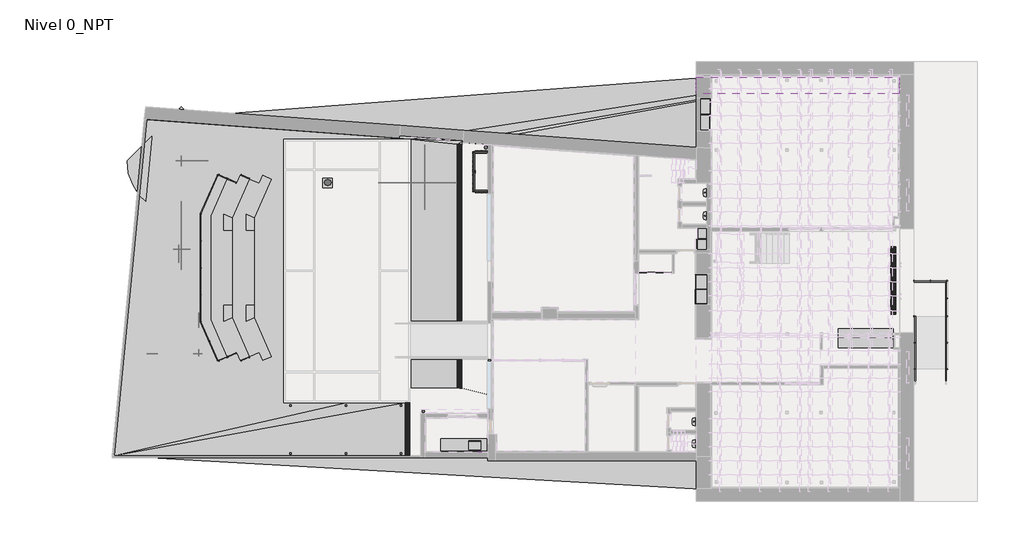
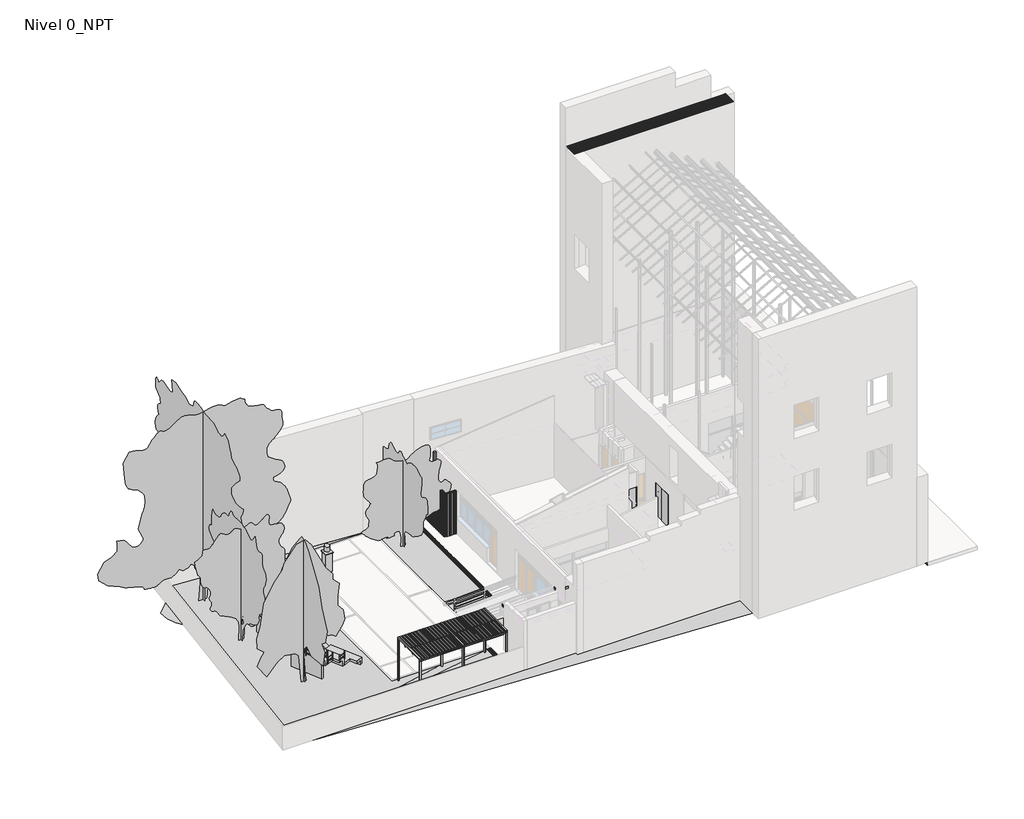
# One storey, part 10 of 10: 9 furniture elements, 9 proxies, 8 flow terminals, 4 geographic elements, 3 railings, 2 pipe segments, 1 damper.
"""IFC4 building model written with IfcOpenShell, lengths in millimetres."""

from ifc_helpers import new_model, si_unit, point, frame, frame_2d, origin, origin_with_axes, place, context, project, spatial, polyline, circle_curve, ellipse_curve, trimmed, segment, composite_curve, outline, extrude, triangles, transform, mapped, element, save
from ifc_brep_helpers import plane_surface, cylinder_surface, revolved_surface, advanced_brep
from components import generic_models_beb3b24c, generic_models_87788374, generic_models_1a0a9cd3, entourage_15c4bb0f, m_soporte_metal_circular_m_soporte_metal_circular_cf76aa7a, m_soporte_metal_circular_m_soporte_metal_circular_edb782eb, m_soporte_metal_circular_m_soporte_metal_circular_16798473, damper_fd79afff, flow_terminal_b1aadda9, flow_terminal_1d86f806, flow_terminal_f0fdbc4b, flow_terminal_4e4d4900, deposito_e05efdb8, furniture_89fc56a2, furniture_e91b6440, furniture_49c65746, furniture_471fc760, furniture_0ec30544, furniture_309767dc, furniture_39a86fb1, furniture_507244a7, geographic_element_192016b0, geographic_element_4d039a6d, geographic_element_351dbac9, roble_de_shumard_12_2_metros_2cefd2b4

model = new_model("IFC4")

# Units and contexts
model_context = context("Model", 3, world=origin())
ifc_project = project(units=[si_unit("LENGTHUNIT", "METRE", prefix="MILLI")], contexts=[model_context])

# Site, building, storey
site = spatial("IfcSite", under=ifc_project)
building = spatial("IfcBuilding", under=site)
storey = spatial("IfcBuildingStorey", under=building, Name="Nivel 0_NPT", Elevation=0.0)

# Proxies
placement = place(None, origin())
element("IfcBuildingElementProxy", 1, Name="Building Element Proxy", at=placement, inside=storey, context=model_context, shape_type="Tessellation", body=[
    triangles([(-20610.9698364, 11624.0056, -200.0000015), (-22128.8260254, -4256.3928108, -200.0000015), (15594.8120636, -6406.3671021, -200.0000015), (15644.8125, -6406.3671021, -420.0000177), (18644.8131042, -6406.3671021, -420.0000177), (18644.8131042, 14343.6070404, -420.0000177), (15644.8125, 14343.6070404, -420.0000177), (15636.9106567, 14343.6070404, -200.0000015), (-5685.1872849, 10461.3009888, -150.0000011), (-5685.1872849, 2237.5654564, -150.5565351), (-5685.1872849, 2006.4196815, -150.5576252), (-5685.1872849, -1076.3928011, -150.0000011), (-5869.4882446, -1076.3928011, -161.8313829), (-5925.1871704, -1076.3928011, -162.2760687), (-5925.1871704, -1066.3927574, -150.0000011), (-5925.1871704, 2101.3006634, -150.0000011), (-5925.1871704, 10461.3009888, -152.926385), (-8145.1871292, -1755.0065392, -200.0000015), (-8145.1871292, -4256.3928108, -200.0000015), (-8385.1875961, -4256.3928108, -200.0000015), (-8385.1875961, -1755.0065392, -200.0000015), (-5667.0790878, 10630.2802094, -200.0000015), (-5689.8003754, -1108.6532593, -200.0000015), (-8138.7427551, 10698.8190491, -180.000005), (-8145.1871292, -1076.3928011, -180.000005)], [[2, 20, 21], [20, 2, 3], [2, 21, 25], [18, 14, 25], [14, 18, 19], [18, 25, 21], [20, 3, 19], [2, 25, 1], [24, 16, 17], [24, 1, 25], [24, 17, 22], [1, 24, 8], [24, 25, 16], [16, 25, 15], [25, 14, 15], [19, 23, 14], [13, 23, 12], [13, 14, 23], [12, 23, 3], [8, 3, 4], [3, 11, 12], [19, 3, 23], [7, 4, 5], [11, 3, 10], [9, 10, 8], [22, 8, 24], [22, 9, 8], [3, 8, 10], [7, 8, 4], [5, 6, 7], [9, 22, 17]], closed=False),
])
generic_models_shape = generic_models_beb3b24c(model_context)
element("IfcBuildingElementProxy", 2, Name="Busto de Artigas : Busto de Artigas", ObjectType="Busto de Artigas : Busto de Artigas", at=placement, inside=storey, context=model_context, shape_type="MappedRepresentation", body=[
    mapped(generic_models_shape, transform((781.312068, 6230.2066743, 0.0), x_axis=(1.0, 0.0, 0.0), y_axis=(0.0, 1.0, 0.0), z_axis=(0.0, 0.0, 1.0))),
])
generic_models_2_shape = generic_models_87788374(model_context)
generic_models_3_shape = generic_models_1a0a9cd3(model_context)
element("IfcBuildingElementProxy", 3, Name="ARQ-PAS-Osogrid-Ace : ARQ-PAS-Osogrid-Ace", ObjectType="ARQ-PAS-Osogrid-Ace : ARQ-PAS-Osogrid-Ace", at=placement, inside=storey, context=model_context, shape_type="MappedRepresentation", body=[
    mapped(generic_models_2_shape, transform((14961.7897792, 12845.7072273, 17860.0), x_axis=(1.0, 0.0, 0.0), y_axis=(0.0, 1.0, 0.0), z_axis=(0.0, 0.0, 1.0))),
    mapped(generic_models_3_shape, transform((14961.7897792, 12845.7072273, 17860.0), x_axis=(1.0, 0.0, 0.0), y_axis=(0.0, 1.0, 0.0), z_axis=(0.0, 0.0, 1.0))),
])
entourage_shape = entourage_15c4bb0f(model_context)
element("IfcBuildingElementProxy", 4, Name="Busto : Busto", ObjectType="Busto : Busto", at=placement, inside=storey, context=model_context, shape_type="MappedRepresentation", body=[
    mapped(entourage_shape, transform((0.0, 0.0, 0.0), x_axis=(1.0, 0.0, 0.0), y_axis=(0.0, 1.0, 0.0), z_axis=(0.0, 0.0, 1.0))),
])
m_soporte_metal_circular_m_soporte_metal_circular_shape = m_soporte_metal_circular_m_soporte_metal_circular_cf76aa7a(model_context)
element("IfcBuildingElementProxy", 5, Name="M_Soporte - Metal - Circular : M_Soporte - Metal - Circular", ObjectType="M_Soporte - Metal - Circular : M_Soporte - Metal - Circular", at=placement, inside=storey, context=model_context, shape_type="MappedRepresentation", body=[
    mapped(m_soporte_metal_circular_m_soporte_metal_circular_shape, transform((16433.044121, 3951.1327145, 855.0), x_axis=(1.0, 0.0, 0.0), y_axis=(0.0, 1.0, 0.0), z_axis=(0.0, 0.0, 1.0))),
])
element("IfcBuildingElementProxy", 6, Name="M_Soporte - Metal - Circular : M_Soporte - Metal - Circular", ObjectType="M_Soporte - Metal - Circular : M_Soporte - Metal - Circular", at=placement, inside=storey, context=model_context, shape_type="MappedRepresentation", body=[
    mapped(m_soporte_metal_circular_m_soporte_metal_circular_shape, transform((17159.294121, 1085.9455797, 754.9850292), x_axis=(0.0, -1.0, 0.0), y_axis=(1.0, 0.0, 0.0), z_axis=(0.0, 0.0, 1.0))),
])
element("IfcBuildingElementProxy", 7, Name="M_Soporte - Metal - Circular : M_Soporte - Metal - Circular", ObjectType="M_Soporte - Metal - Circular : M_Soporte - Metal - Circular", at=placement, inside=storey, context=model_context, shape_type="MappedRepresentation", body=[
    mapped(m_soporte_metal_circular_m_soporte_metal_circular_shape, transform((15699.8126262, 1085.9455797, 754.9850292), x_axis=(0.0, 1.0, 0.0), y_axis=(-1.0, 0.0, 0.0), z_axis=(0.0, 0.0, 1.0))),
])
m_soporte_metal_circular_m_soporte_metal_circular_2_shape = m_soporte_metal_circular_m_soporte_metal_circular_edb782eb(model_context)
element("IfcBuildingElementProxy", 8, Name="M_Soporte - Metal - Circular : M_Soporte - Metal - Circular", ObjectType="M_Soporte - Metal - Circular : M_Soporte - Metal - Circular", at=placement, inside=storey, context=model_context, shape_type="MappedRepresentation", body=[
    mapped(m_soporte_metal_circular_m_soporte_metal_circular_2_shape, transform((17159.294121, 2336.1327145, 855.0), x_axis=(0.0, -1.0, 0.0), y_axis=(1.0, 0.0, 0.0), z_axis=(0.0, 0.0, 1.0))),
])
m_soporte_metal_circular_m_soporte_metal_circular_3_shape = m_soporte_metal_circular_m_soporte_metal_circular_16798473(model_context)
element("IfcBuildingElementProxy", 9, Name="M_Soporte - Metal - Circular : M_Soporte - Metal - Circular", ObjectType="M_Soporte - Metal - Circular : M_Soporte - Metal - Circular", at=placement, inside=storey, context=model_context, shape_type="MappedRepresentation", body=[
    mapped(m_soporte_metal_circular_m_soporte_metal_circular_3_shape, transform((17159.294121, 3176.1327145, 855.0), x_axis=(0.0, -1.0, 0.0), y_axis=(1.0, 0.0, 0.0), z_axis=(0.0, 0.0, 1.0))),
])

# Damper
damper_shape = damper_fd79afff(model_context)
element("IfcDamper", 10, ObjectType="Tapas Canalon : Tapas Canalon", at=placement, inside=storey, context=model_context, shape_type="MappedRepresentation", body=[
    mapped(damper_shape, transform((0.0, 0.0, 0.0), x_axis=(1.0, 0.0, 0.0), y_axis=(0.0, 1.0, 0.0), z_axis=(0.0, 0.0, 1.0))),
])

# Flow terminals
flow_terminal_shape = flow_terminal_b1aadda9(model_context)
element("IfcFlowTerminal", 11, ObjectType="ARQ-RE-EX-Ace : L=8.36m", at=placement, inside=storey, context=model_context, shape_type="MappedRepresentation", body=[
    mapped(flow_terminal_shape, transform((-5805.1873738, 6273.8006926, -150.0), x_axis=(0.0, 1.0, 0.0), y_axis=(-1.0, 0.0, 0.0), z_axis=(0.0, 0.0, 1.0))),
])
flow_terminal_2_shape = flow_terminal_1d86f806(model_context)
element("IfcFlowTerminal", 12, ObjectType="ARQ-RE-EX-Ace : L=1.36m", at=placement, inside=storey, context=model_context, shape_type="MappedRepresentation", body=[
    mapped(flow_terminal_2_shape, transform((-5805.1873738, -386.3927727, -150.0), x_axis=(0.0, 1.0, 0.0), y_axis=(-1.0, 0.0, 0.0), z_axis=(0.0, 0.0, 1.0))),
])
flow_terminal_3_shape = flow_terminal_f0fdbc4b(model_context)
element("IfcFlowTerminal", 13, ObjectType="ARQ-RE-EX-Ace : L=2.51m", at=placement, inside=storey, context=model_context, shape_type="MappedRepresentation", body=[
    mapped(flow_terminal_3_shape, transform((-8265.1873738, -3010.0065979, -150.0), x_axis=(0.0, 1.0, 0.0), y_axis=(-1.0, 0.0, 0.0), z_axis=(0.0, 0.0, 1.0))),
])
flow_terminal_4_shape = flow_terminal_4e4d4900(model_context)
element("IfcFlowTerminal", 14, ObjectType="ARQ-RE-EX-Ace : L=3.20m", at=placement, inside=storey, context=model_context, shape_type="MappedRepresentation", body=[
    mapped(flow_terminal_4_shape, transform((14672.0691964, 4024.0367843, 0.0), x_axis=(0.0, 1.0, 0.0), y_axis=(-1.0, 0.0, 0.0), z_axis=(0.0, 0.0, 1.0))),
])
deposito_shape = deposito_e05efdb8(model_context)
element("IfcFlowTerminal", 15, ObjectType="Inodoro-Ferrum-Marina-Deposito : Deposito", at=placement, inside=storey, context=model_context, shape_type="MappedRepresentation", body=[
    mapped(deposito_shape, transform((5850.2897792, 7073.6072273, 437.8840202), x_axis=(0.0, -1.0, 0.0), y_axis=(1.0, 0.0, 0.0), z_axis=(0.0, 0.0, 1.0))),
])
element("IfcFlowTerminal", 16, ObjectType="Inodoro-Ferrum-Marina-Deposito : Deposito", at=placement, inside=storey, context=model_context, shape_type="MappedRepresentation", body=[
    mapped(deposito_shape, transform((5850.2897792, 8172.1072273, 437.8840202), x_axis=(0.0, -1.0, 0.0), y_axis=(1.0, 0.0, 0.0), z_axis=(0.0, 0.0, 1.0))),
])
element("IfcFlowTerminal", 17, ObjectType="Inodoro-Ferrum-Marina-Deposito : Deposito", at=placement, inside=storey, context=model_context, shape_type="MappedRepresentation", body=[
    mapped(deposito_shape, transform((5340.2897792, -2652.8927727, 437.8840202), x_axis=(0.0, -1.0, 0.0), y_axis=(1.0, 0.0, 0.0), z_axis=(0.0, 0.0, 1.0))),
])
element("IfcFlowTerminal", 18, ObjectType="Inodoro-Ferrum-Marina-Deposito : Deposito", at=placement, inside=storey, context=model_context, shape_type="MappedRepresentation", body=[
    mapped(deposito_shape, transform((5340.2897792, -3692.8927727, 417.8840202), x_axis=(0.0, -1.0, 0.0), y_axis=(1.0, 0.0, 0.0), z_axis=(0.0, 0.0, 1.0))),
])

# Furniture
element("IfcFurniture", 19, ObjectType="ARQ-MB-IN-Mesada cocina : ARQ-MB-IN-Mesada cocina", at=placement, inside=storey, context=model_context, shape_type="SolidModel", body=[
    extrude(outline(polyline([(-6705.1873738, -4066.3927727), (-6705.1873738, -3566.3927727), (-4505.1873738, -3566.3927727), (-4505.1873738, -4066.3927727), (-6705.1873738, -4066.3927727)])), origin_with_axes(), (0.0, 0.0, 1.0), 100.0),
    advanced_brep(
    [(-6705.1873738, -4066.3927727, 880.0), (-4505.1873738, -4066.3927727, 880.0), (-4505.1873738, -3466.3927727, 880.0), (-6705.1873738, -3466.3927727, 880.0), (-6685.1873738, -4046.3927727, 880.0), (-6685.1873738, -3566.3927727, 880.0), (-5388.9815738, -3566.3927727, 880.0), (-5388.9815738, -3552.0905727, 880.0), (-4821.3931738, -3552.0905727, 880.0), (-4821.3931738, -3566.3927727, 880.0), (-4525.1873738, -3566.3927727, 880.0), (-4525.1873738, -4046.3927727, 880.0), (-6705.1873738, -4066.3927727, 100.0), (-6705.1873738, -3466.3927727, 100.0), (-4505.1873738, -3466.3927727, 100.0), (-4505.1873738, -4066.3927727, 100.0), (-6685.1873738, -4046.3927727, 100.0), (-4525.1873738, -4046.3927727, 100.0), (-4525.1873738, -3566.3927727, 100.0), (-6685.1873738, -3566.3927727, 100.0), (-4821.3931738, -3566.3927727, 874.6), (-4800.3873738, -3566.3927727, 874.6), (-4800.3873738, -3566.3927727, 653.4358704), (-5409.9873738, -3566.3927727, 653.4358704), (-5409.9873738, -3566.3927727, 874.6), (-5388.9815738, -3566.3927727, 874.6), (-4800.3873738, -3537.4347727, 653.4358704), (-4806.7373738, -3531.0847727, 653.4358704), (-5403.6373738, -3531.0847727, 653.4358704), (-5409.9873738, -3537.4347727, 653.4358704), (-5409.9873738, -3537.4347727, 874.6), (-5403.6373738, -3531.0847727, 874.6), (-4806.7373738, -3531.0847727, 874.6), (-4800.3873738, -3537.4347727, 874.6), (-4821.3931738, -3552.0905727, 874.6), (-5388.9815738, -3552.0905727, 874.6)],
    [
        (0, 1),
        (1, 2),
        (2, 3),
        (3, 0),
        (4, 5),
        (5, 6),
        (6, 7),
        (7, 8),
        (8, 9),
        (9, 10),
        (10, 11),
        (11, 4),
        (12, 13),
        (13, 14),
        (14, 15),
        (15, 12),
        (16, 17),
        (17, 18),
        (18, 19),
        (19, 16),
        (0, 12),
        (15, 1),
        (14, 2),
        (13, 3),
        (4, 16),
        (19, 5),
        (18, 10),
        (9, 20),
        (20, 21),
        (21, 22),
        (22, 23),
        (23, 24),
        (24, 25),
        (25, 6),
        (17, 11),
        (26, 27, circle_curve(frame((-4806.7373738, -3537.4347727, 653.4358704), z_axis=(0.0, 0.0, 1.0), x_axis=(-1.0, 0.0, 0.0)), 6.35)),
        (27, 28),
        (28, 29, circle_curve(frame((-5403.6373738, -3537.4347727, 653.4358704), z_axis=(0.0, 0.0, 1.0), x_axis=(-1.0, 0.0, 0.0)), 6.35)),
        (29, 23),
        (22, 26),
        (30, 31, circle_curve(frame((-5403.6373738, -3537.4347727, 874.6), z_axis=(0.0, 0.0, -1.0), x_axis=(-1.0, 0.0, 0.0)), 6.35)),
        (31, 32),
        (32, 33, circle_curve(frame((-4806.7373738, -3537.4347727, 874.6), z_axis=(0.0, 0.0, -1.0), x_axis=(-1.0, 0.0, 0.0)), 6.35)),
        (33, 21),
        (20, 34),
        (34, 35),
        (35, 25),
        (24, 30),
        (33, 26),
        (32, 27),
        (31, 28),
        (30, 29),
        (8, 34),
        (7, 35),
    ],
    [
        plane_surface(frame((-4927.6833675, -4066.3927727, 880.0), z_axis=(0.0, 0.0, 1.0), x_axis=(1.0, 0.0, 0.0))),
        plane_surface(frame((-4927.6833675, -4066.3927727, 100.0), z_axis=(0.0, 0.0, -1.0), x_axis=(-1.0, 0.0, 0.0))),
        plane_surface(frame((-6705.1873738, -4066.3927727, 880.0), z_axis=(0.0, -1.0, 0.0), x_axis=(0.0, 0.0, -1.0))),
        plane_surface(frame((-4505.1873738, -4066.3927727, 880.0), z_axis=(1.0, 0.0, 0.0), x_axis=(0.0, 0.0, -1.0))),
        plane_surface(frame((-4505.1873738, -3466.3927727, 880.0), z_axis=(0.0, 1.0, 0.0), x_axis=(0.0, 0.0, -1.0))),
        plane_surface(frame((-6705.1873738, -3466.3927727, 880.0), z_axis=(-1.0, 0.0, 0.0), x_axis=(0.0, 0.0, -1.0))),
        plane_surface(frame((-6685.1873738, -4046.3927727, 880.0), z_axis=(1.0, 0.0, 0.0), x_axis=(0.0, 0.0, -1.0))),
        plane_surface(frame((-6685.1873738, -3566.3927727, 880.0), z_axis=(0.0, -1.0, 0.0), x_axis=(0.0, 0.0, -1.0))),
        plane_surface(frame((-4525.1873738, -3566.3927727, 880.0), z_axis=(-1.0, 0.0, 0.0), x_axis=(0.0, 0.0, -1.0))),
        plane_surface(frame((-4525.1873738, -4046.3927727, 880.0), z_axis=(0.0, 1.0, 0.0), x_axis=(0.0, 0.0, -1.0))),
        plane_surface(frame((-4813.0873738, -3988.2847727, 653.4358704), z_axis=(0.0, 0.0, 1.0), x_axis=(0.0, 1.0, 0.0))),
        plane_surface(frame((-4813.0873738, -3988.2847727, 874.6), z_axis=(0.0, 0.0, -1.0), x_axis=(0.0, -1.0, 0.0))),
        plane_surface(frame((-4800.3873738, -3988.2847727, 874.6), z_axis=(-1.0, 0.0, 0.0), x_axis=(0.0, 0.0, -1.0))),
        revolved_surface(polyline([(-4813.0873738, -3537.4347727, 874.6), (-4813.0873738, -3537.4347727, 653.4358704)]), (-4806.7373738, -3537.4347727, 653.4358704), (0.0, 0.0, 1.0)),
        plane_surface(frame((-4806.7373738, -3531.0847727, 874.6), z_axis=(0.0, -1.0, 0.0), x_axis=(0.0, 0.0, -1.0))),
        revolved_surface(polyline([(-5409.987373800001, -3537.4347727, 874.6), (-5409.987373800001, -3537.4347727, 653.4358704)]), (-5403.6373738, -3537.4347727, 653.4358704), (0.0, 0.0, 1.0)),
        plane_surface(frame((-5409.9873738, -3537.4347727, 874.6), z_axis=(1.0, 0.0, 0.0), x_axis=(0.0, 0.0, -1.0))),
        plane_surface(frame((-4821.3931738, -3974.8989727, 900.0), z_axis=(-1.0, 0.0, 0.0), x_axis=(0.0, 0.0, -1.0))),
        plane_surface(frame((-4821.3931738, -3552.0905727, 900.0), z_axis=(0.0, -1.0, 0.0), x_axis=(0.0, 0.0, -1.0))),
        plane_surface(frame((-5388.9815738, -3552.0905727, 900.0), z_axis=(1.0, 0.0, 0.0), x_axis=(0.0, 0.0, -1.0))),
    ],
    [
        (0, [[1, 2, 3, 4], [5, 6, 7, 8, 9, 10, 11, 12]]),
        (1, [[13, 14, 15, 16], [17, 18, 19, 20]]),
        (2, [[-1, 21, -16, 22]]),
        (3, [[-2, -22, -15, 23]]),
        (4, [[-3, -23, -14, 24]]),
        (5, [[-4, -24, -13, -21]]),
        (6, [[-5, 25, -20, 26]]),
        (7, [[-19, 27, -10, 28, 29, 30, 31, 32, 33, 34, -6, -26]]),
        (8, [[-11, -27, -18, 35]]),
        (9, [[-12, -35, -17, -25]]),
        (10, [[36, 37, 38, 39, -31, 40]]),
        (11, [[41, 42, 43, 44, -29, 45, 46, 47, -33, 48]]),
        (12, [[49, -40, -30, -44]]),
        (13, [[-36, -49, -43, 50]]),
        (14, [[-37, -50, -42, 51]]),
        (15, [[-38, -51, -41, 52]]),
        (16, [[-52, -48, -32, -39]]),
        (17, [[-45, -28, -9, 53]]),
        (18, [[-46, -53, -8, 54]]),
        (19, [[-47, -54, -7, -34]]),
    ],
),
    extrude(outline(polyline([(-6705.1873738, -4066.3927727), (-6705.1873738, -3466.3927727), (-4505.1873738, -3466.3927727), (-4505.1873738, -4066.3927727), (-6705.1873738, -4066.3927727)]), holes=[polyline([(-4821.3931738, -3974.8989727), (-4821.3931738, -3552.0905727), (-5388.9815738, -3552.0905727), (-5388.9815738, -3974.8989727), (-4821.3931738, -3974.8989727)])]), frame((0.0, 0.0, 880.0), z_axis=(0.0, 0.0, 1.0), x_axis=(1.0, 0.0, 0.0)), (0.0, 0.0, 1.0), 20.0),
    extrude(outline(polyline([(-4505.1873738, -4066.3927727), (-6705.1873738, -4066.3927727), (-6705.1873738, -4046.3927727), (-4525.1873738, -4046.3927727), (-4525.1873738, -3466.3927727), (-4505.1873738, -3466.3927727), (-4505.1873738, -4066.3927727)])), frame((0.0, 0.0, 900.0), z_axis=(0.0, 0.0, 1.0), x_axis=(1.0, 0.0, 0.0)), (0.0, 0.0, 1.0), 100.0),
])
furniture_shape = furniture_89fc56a2(model_context)
element("IfcFurniture", 20, ObjectType="ARQ-MB-EX-Al : ARQ-MB-EX-Al", at=placement, inside=storey, context=model_context, shape_type="MappedRepresentation", body=[
    mapped(furniture_shape, transform((-4445.1873738, 9207.7705831, -150.0), x_axis=(0.0, -1.0, 0.0), y_axis=(1.0, 0.0, 0.0), z_axis=(0.0, 0.0, 1.0))),
])
furniture_2_shape = furniture_e91b6440(model_context)
element("IfcFurniture", 21, ObjectType="ARQ-MB-IN-Mad-Me : ARQ-MB-IN-152x220-Mad-Me1", at=placement, inside=storey, context=model_context, shape_type="MappedRepresentation", body=[
    mapped(furniture_2_shape, transform((5649.2897792, 11823.9069009, 0.0), x_axis=(0.0, 1.0, 0.0), y_axis=(-1.0, 0.0, 0.0), z_axis=(0.0, 0.0, 1.0))),
])
furniture_3_shape = furniture_49c65746(model_context)
element("IfcFurniture", 22, ObjectType="ARQ-MB-IN-Mad-Me : ARQ-MB-IN-141x210-Mad-Me4", at=placement, inside=storey, context=model_context, shape_type="MappedRepresentation", body=[
    mapped(furniture_3_shape, transform((5789.2897792, 3648.3075538, 0.0), x_axis=(0.0, -1.0, 0.0), y_axis=(1.0, 0.0, 0.0), z_axis=(0.0, 0.0, 1.0))),
])
furniture_4_shape = furniture_471fc760(model_context)
element("IfcFurniture", 23, ObjectType="ARQ-MB-IN-Mad-Me2 : ARQ-MB-IN-Mad-Me", at=placement, inside=storey, context=model_context, shape_type="MappedRepresentation", body=[
    mapped(furniture_4_shape, transform((3387.7063983, 4753.6060312, 0.0), x_axis=(1.0, 0.0, 0.0), y_axis=(0.0, 1.0, 0.0), z_axis=(0.0, 0.0, 1.0))),
])
furniture_5_shape = furniture_0ec30544(model_context)
element("IfcFurniture", 24, ObjectType="ARQ-MB-IN-Mad-Me3 : ARQ-MB-IN-Mad-Me", at=placement, inside=storey, context=model_context, shape_type="MappedRepresentation", body=[
    mapped(furniture_5_shape, transform((5764.2897792, 6028.3075537, 0.0), x_axis=(0.0, -1.0, 0.0), y_axis=(1.0, 0.0, 0.0), z_axis=(0.0, 0.0, 1.0))),
])
furniture_6_shape = furniture_309767dc(model_context)
element("IfcFurniture", 25, ObjectType="ARQ-MB-IN-YesoMad-Me5 : ARQ-MB-IN-YesoMad-Me5", at=placement, inside=storey, context=model_context, shape_type="MappedRepresentation", body=[
    mapped(furniture_6_shape, transform((13317.6544396, 1734.5940615, 0.0), x_axis=(1.0, 0.0, 0.0), y_axis=(0.0, 1.0, 0.0), z_axis=(0.0, 0.0, 1.0))),
])
furniture_7_shape = furniture_39a86fb1(model_context)
element("IfcFurniture", 26, ObjectType="ARQ-EX-Gradas : ARQ-EX-Gradas", at=placement, inside=storey, context=model_context, shape_type="MappedRepresentation", body=[
    mapped(furniture_7_shape, transform((-16389.8831474, 4572.0982538, -200.0), x_axis=(0.0, 1.0, 0.0), y_axis=(-1.0, 0.0, 0.0), z_axis=(0.0, 0.0, 1.0))),
])
furniture_8_shape = furniture_507244a7(model_context)
element("IfcFurniture", 27, ObjectType="ARQ-EXT-Pergola-Mad : ARQ-EXT-Pergola-Mad", at=placement, inside=storey, context=model_context, shape_type="MappedRepresentation", body=[
    mapped(furniture_8_shape, transform((-11239.8877002, -1846.3927727, -200.0), x_axis=(1.0, 0.0, 0.0), y_axis=(0.0, 1.0, 0.0), z_axis=(0.0, 0.0, 1.0))),
])

# Geographic elements
geographic_element_shape = geographic_element_192016b0(model_context)
element("IfcGeographicElement", 28, ObjectType="RPC Árbol - Otoño : Haya americana - 6,0 metros", at=placement, inside=storey, context=model_context, shape_type="MappedRepresentation", body=[
    mapped(geographic_element_shape, transform((-7459.7958221, 8632.1508809, -200.0), x_axis=(1.0, 0.0, 0.0), y_axis=(0.0, 1.0, 0.0), z_axis=(0.0, 0.0, 1.0))),
])
geographic_element_2_shape = geographic_element_4d039a6d(model_context)
element("IfcGeographicElement", 29, ObjectType="RPC Árbol - Otoño : Acacia de tres púas - 7,6 metros", at=placement, inside=storey, context=model_context, shape_type="MappedRepresentation", body=[
    mapped(geographic_element_2_shape, transform((-19085.1873738, 5498.8190638, -200.0), x_axis=(1.0, 0.0, 0.0), y_axis=(0.0, 1.0, 0.0), z_axis=(0.0, 0.0, 1.0))),
])
geographic_element_3_shape = geographic_element_351dbac9(model_context)
element("IfcGeographicElement", 30, ObjectType="RPC Árbol - Otoño : Fresno blanco - 9,1 metros", at=placement, inside=storey, context=model_context, shape_type="MappedRepresentation", body=[
    mapped(geographic_element_3_shape, transform((-18138.7427078, 554.5844917, -200.0), x_axis=(1.0, 0.0, 0.0), y_axis=(0.0, 1.0, 0.0), z_axis=(0.0, 0.0, 1.0))),
])
roble_de_shumard_12_2_metros_shape = roble_de_shumard_12_2_metros_2cefd2b4(model_context)
element("IfcGeographicElement", 31, ObjectType="RPC Árbol - Otoño : Roble de Shumard - 12,2 metros", at=placement, inside=storey, context=model_context, shape_type="MappedRepresentation", body=[
    mapped(roble_de_shumard_12_2_metros_shape, transform((-18975.1708449, 9679.314051, -200.0), x_axis=(1.0, 0.0, 0.0), y_axis=(0.0, 1.0, 0.0), z_axis=(0.0, 0.0, 1.0))),
])

# Pipe segments
element("IfcPipeSegment", 32, ObjectType="Por defecto", at=placement, inside=storey, context=model_context, shape_type="SweptSolid", body=[
    extrude(outline(composite_curve([segment(trimmed(circle_curve(frame_2d((-4581.0979951, 10313.271934)), 84.1375), [point((-4496.9604951, 10313.271934))], [point((-4581.0979951, 10229.134434))], False, "CARTESIAN"), True, "CONTINUOUS"), segment(trimmed(circle_curve(frame_2d((-4581.0979951, 10313.271934)), 84.1375), [point((-4581.0979951, 10229.134434))], [point((-4665.2354951, 10313.271934))], False, "CARTESIAN"), True, "CONTINUOUS"), segment(trimmed(circle_curve(frame_2d((-4581.0979951, 10313.271934)), 84.1375), [point((-4665.2354951, 10313.271934))], [point((-4581.0979951, 10397.409434))], False, "CARTESIAN"), True, "CONTINUOUS"), segment(trimmed(circle_curve(frame_2d((-4581.0979951, 10313.271934)), 84.1375), [point((-4581.0979951, 10397.409434))], [point((-4496.9604951, 10313.271934))], False, "CARTESIAN"), True, "CONTINUOUS")], self_intersect=False)), frame((0.0, 0.0, -280.0), z_axis=(0.0, 0.0, 1.0), x_axis=(1.0, 0.0, 0.0)), (0.0, 0.0, 1.0), 4100.0),
])
element("IfcPipeSegment", 33, ObjectType="Por defecto", at=placement, inside=storey, context=model_context, shape_type="SweptSolid", body=[
    extrude(outline(composite_curve([segment(trimmed(circle_curve(frame_2d((-7532.6131818, -2162.3426041)), 57.15), [point((-7475.4631818, -2162.3426041))], [point((-7532.6131818, -2219.4926041))], False, "CARTESIAN"), True, "CONTINUOUS"), segment(trimmed(circle_curve(frame_2d((-7532.6131818, -2162.3426041)), 57.15), [point((-7532.6131818, -2219.4926041))], [point((-7589.7631818, -2162.3426041))], False, "CARTESIAN"), True, "CONTINUOUS"), segment(trimmed(circle_curve(frame_2d((-7532.6131818, -2162.3426041)), 57.15), [point((-7589.7631818, -2162.3426041))], [point((-7532.6131818, -2105.1926041))], False, "CARTESIAN"), True, "CONTINUOUS"), segment(trimmed(circle_curve(frame_2d((-7532.6131818, -2162.3426041)), 57.15), [point((-7532.6131818, -2105.1926041))], [point((-7475.4631818, -2162.3426041))], False, "CARTESIAN"), True, "CONTINUOUS")], self_intersect=False)), frame((0.0, 0.0, -160.0), z_axis=(0.0, 0.0, 1.0), x_axis=(1.0, 0.0, 0.0)), (0.0, 0.0, 1.0), 2700.0),
])

# Railings
element("IfcRailing", 34, ObjectType="ARQ-BAR-EX-Hi-Rampa 3", at=placement, inside=storey, context=model_context, shape_type="SolidModel", body=[
    advanced_brep(
    [(17181.794121, 2336.1327145, 677.4281148), (17136.794121, 2336.1327145, 677.4281148), (17136.794121, -162.9687209, 477.5), (17181.794121, -162.9687209, 477.5), (17181.794121, -744.3687272, 477.5), (17136.794121, -744.3687272, 477.5)],
    [
        (0, 1, ellipse_curve(frame((17159.294121, 2336.1327145, 677.4281148), z_axis=(0.0, 1.0, 0.0), x_axis=(0.0, 0.0, -1.0)), 22.5718852, 22.5)),
        (1, 0, ellipse_curve(frame((17159.294121, 2336.1327145, 677.4281148), z_axis=(0.0, 1.0, 0.0), x_axis=(0.0, 0.0, -1.0)), 22.5718852, 22.5)),
        (2, 3, ellipse_curve(frame((17159.294121, -162.9687209, 477.5), z_axis=(0.0, 0.9992035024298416, 0.03990439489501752), x_axis=(0.0, 0.03990439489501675, -0.9992035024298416)), 22.5179355, 22.5)),
        (3, 0),
        (1, 2),
        (3, 2, ellipse_curve(frame((17159.294121, -162.9687209, 477.5), z_axis=(0.0, 0.9992035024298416, 0.03990439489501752), x_axis=(0.0, 0.03990439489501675, -0.9992035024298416)), 22.5179355, 22.5)),
        (4, 5, circle_curve(frame((17159.294121, -744.3687272, 477.5), z_axis=(0.0, -1.0, 0.0), x_axis=(-1.0, 0.0, 0.0)), 22.5)),
        (5, 4, circle_curve(frame((17159.294121, -744.3687272, 477.5), z_axis=(0.0, -1.0, 0.0), x_axis=(-1.0, 0.0, 0.0)), 22.5)),
        (4, 3),
        (2, 5),
    ],
    [
        plane_surface(frame((17159.294121, 2336.1327145, 700.0), z_axis=(0.0, 1.0, 0.0), x_axis=(0.0, 0.0, 1.0))),
        cylinder_surface(frame((17159.294121, -162.073018, 477.5716562), z_axis=(0.0, -0.9968152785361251, -0.07974522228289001), x_axis=(-1.0, 0.0, 0.0)), 22.5),
        plane_surface(frame((17159.294121, -744.3687272, 500.0), z_axis=(0.0, -1.0, 0.0), x_axis=(0.0, 0.0, 1.0))),
        cylinder_surface(frame((17159.294121, -744.3687272, 477.5), z_axis=(0.0, -1.0, 0.0), x_axis=(-1.0, 0.0, 0.0)), 22.5),
    ],
    [
        (0, [[1, 2]]),
        (1, [[3, 4, -2, 5]]),
        (1, [[6, -5, -1, -4]]),
        (2, [[7, 8]]),
        (3, [[-7, 9, -3, 10]]),
        (3, [[-8, -10, -6, -9]]),
    ],
),
    advanced_brep(
    [(17181.794121, 2336.1327145, 877.4281148), (17136.794121, 2336.1327145, 877.4281148), (17136.794121, -162.9687209, 677.5), (17181.794121, -162.9687209, 677.5), (17181.794121, -744.3687272, 677.5), (17136.794121, -744.3687272, 677.5)],
    [
        (0, 1, ellipse_curve(frame((17159.294121, 2336.1327145, 877.4281148), z_axis=(0.0, 1.0, 0.0), x_axis=(0.0, 0.0, -1.0)), 22.5718852, 22.5)),
        (1, 0, ellipse_curve(frame((17159.294121, 2336.1327145, 877.4281148), z_axis=(0.0, 1.0, 0.0), x_axis=(0.0, 0.0, -1.0)), 22.5718852, 22.5)),
        (2, 3, ellipse_curve(frame((17159.294121, -162.9687209, 677.5), z_axis=(0.0, 0.9992035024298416, 0.03990439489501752), x_axis=(0.0, 0.03990439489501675, -0.9992035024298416)), 22.5179355, 22.5)),
        (3, 0),
        (1, 2),
        (3, 2, ellipse_curve(frame((17159.294121, -162.9687209, 677.5), z_axis=(0.0, 0.9992035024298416, 0.03990439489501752), x_axis=(0.0, 0.03990439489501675, -0.9992035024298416)), 22.5179355, 22.5)),
        (4, 5, circle_curve(frame((17159.294121, -744.3687272, 677.5), z_axis=(0.0, -1.0, 0.0), x_axis=(-1.0, 0.0, 0.0)), 22.5)),
        (5, 4, circle_curve(frame((17159.294121, -744.3687272, 677.5), z_axis=(0.0, -1.0, 0.0), x_axis=(-1.0, 0.0, 0.0)), 22.5)),
        (4, 3),
        (2, 5),
    ],
    [
        plane_surface(frame((17159.294121, 2336.1327145, 900.0), z_axis=(0.0, 1.0, 0.0), x_axis=(0.0, 0.0, 1.0))),
        cylinder_surface(frame((17159.294121, -162.073018, 677.5716562), z_axis=(0.0, -0.9968152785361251, -0.07974522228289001), x_axis=(-1.0, 0.0, 0.0)), 22.5),
        plane_surface(frame((17159.294121, -744.3687272, 700.0), z_axis=(0.0, -1.0, 0.0), x_axis=(0.0, 0.0, 1.0))),
        cylinder_surface(frame((17159.294121, -744.3687272, 677.5), z_axis=(0.0, -1.0, 0.0), x_axis=(-1.0, 0.0, 0.0)), 22.5),
    ],
    [
        (0, [[1, 2]]),
        (1, [[3, 4, -2, 5]]),
        (1, [[6, -5, -1, -4]]),
        (2, [[7, 8]]),
        (3, [[-7, 9, -3, 10]]),
        (3, [[-8, -10, -6, -9]]),
    ],
),
    extrude(outline(composite_curve([segment(trimmed(circle_curve(frame_2d((17214.294121, 1086.1327145)), 20.0), [point((17234.294121, 1086.1327145))], [point((17194.294121, 1086.1327145))], False, "CARTESIAN"), True, "CONTINUOUS"), segment(trimmed(circle_curve(frame_2d((17214.294121, 1086.1327145)), 20.0), [point((17194.294121, 1086.1327145))], [point((17234.294121, 1086.1327145))], False, "CARTESIAN"), True, "CONTINUOUS")], self_intersect=False)), origin_with_axes(), (0.0, 0.0, 1.0), 900.0),
    extrude(outline(composite_curve([segment(trimmed(circle_curve(frame_2d((17214.294121, 2336.1327145)), 20.0), [point((17234.294121, 2336.1327145))], [point((17194.294121, 2336.1327145))], False, "CARTESIAN"), True, "CONTINUOUS"), segment(trimmed(circle_curve(frame_2d((17214.294121, 2336.1327145)), 20.0), [point((17194.294121, 2336.1327145))], [point((17234.294121, 2336.1327145))], False, "CARTESIAN"), True, "CONTINUOUS")], self_intersect=False)), frame((0.0, 0.0, 100.0), z_axis=(0.0, 0.0, 1.0), x_axis=(1.0, 0.0, 0.0)), (0.0, 0.0, 1.0), 900.0),
    extrude(outline(composite_curve([segment(trimmed(circle_curve(frame_2d((17214.294121, -163.8672855)), 20.0), [point((17234.294121, -163.8672855))], [point((17194.294121, -163.8672855))], False, "CARTESIAN"), True, "CONTINUOUS"), segment(trimmed(circle_curve(frame_2d((17214.294121, -163.8672855)), 20.0), [point((17194.294121, -163.8672855))], [point((17234.294121, -163.8672855))], False, "CARTESIAN"), True, "CONTINUOUS")], self_intersect=False)), frame((0.0, 0.0, -100.0), z_axis=(0.0, 0.0, 1.0), x_axis=(1.0, 0.0, 0.0)), (0.0, 0.0, 1.0), 900.0),
])
element("IfcRailing", 35, ObjectType="ARQ-BAR-EX-Hi-Rampa 3", at=placement, inside=storey, context=model_context, shape_type="SolidModel", body=[
    advanced_brep(
    [(15722.3126262, 2336.1327145, 677.4281148), (15677.3126262, 2336.1327145, 677.4281148), (15677.3126262, -162.9687209, 477.5), (15722.3126262, -162.9687209, 477.5), (15722.3126262, -744.3687272, 477.5), (15677.3126262, -744.3687272, 477.5)],
    [
        (0, 1, ellipse_curve(frame((15699.8126262, 2336.1327145, 677.4281148), z_axis=(0.0, 1.0, 0.0), x_axis=(0.0, 0.0, -1.0)), 22.5718852, 22.5)),
        (1, 0, ellipse_curve(frame((15699.8126262, 2336.1327145, 677.4281148), z_axis=(0.0, 1.0, 0.0), x_axis=(0.0, 0.0, -1.0)), 22.5718852, 22.5)),
        (2, 3, ellipse_curve(frame((15699.8126262, -162.9687209, 477.5), z_axis=(0.0, 0.9992035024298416, 0.03990439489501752), x_axis=(0.0, 0.03990439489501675, -0.9992035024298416)), 22.5179355, 22.5)),
        (3, 0),
        (1, 2),
        (3, 2, ellipse_curve(frame((15699.8126262, -162.9687209, 477.5), z_axis=(0.0, 0.9992035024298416, 0.03990439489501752), x_axis=(0.0, 0.03990439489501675, -0.9992035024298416)), 22.5179355, 22.5)),
        (4, 5, circle_curve(frame((15699.8126262, -744.3687272, 477.5), z_axis=(0.0, -1.0, 0.0), x_axis=(-1.0, 0.0, 0.0)), 22.5)),
        (5, 4, circle_curve(frame((15699.8126262, -744.3687272, 477.5), z_axis=(0.0, -1.0, 0.0), x_axis=(-1.0, 0.0, 0.0)), 22.5)),
        (4, 3),
        (2, 5),
    ],
    [
        plane_surface(frame((15699.8126262, 2336.1327145, 700.0), z_axis=(0.0, 1.0, 0.0), x_axis=(0.0, 0.0, 1.0))),
        cylinder_surface(frame((15699.8126262, -162.073018, 477.5716562), z_axis=(0.0, -0.9968152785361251, -0.07974522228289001), x_axis=(-1.0, 0.0, 0.0)), 22.5),
        plane_surface(frame((15699.8126262, -744.3687272, 500.0), z_axis=(0.0, -1.0, 0.0), x_axis=(0.0, 0.0, 1.0))),
        cylinder_surface(frame((15699.8126262, -744.3687272, 477.5), z_axis=(0.0, -1.0, 0.0), x_axis=(-1.0, 0.0, 0.0)), 22.5),
    ],
    [
        (0, [[1, 2]]),
        (1, [[3, 4, -2, 5]]),
        (1, [[6, -5, -1, -4]]),
        (2, [[7, 8]]),
        (3, [[-7, 9, -3, 10]]),
        (3, [[-8, -10, -6, -9]]),
    ],
),
    advanced_brep(
    [(15722.3126262, 2336.1327145, 877.4281148), (15677.3126262, 2336.1327145, 877.4281148), (15677.3126262, -162.9687209, 677.5), (15722.3126262, -162.9687209, 677.5), (15722.3126262, -744.3687272, 677.5), (15677.3126262, -744.3687272, 677.5)],
    [
        (0, 1, ellipse_curve(frame((15699.8126262, 2336.1327145, 877.4281148), z_axis=(0.0, 1.0, 0.0), x_axis=(0.0, 0.0, -1.0)), 22.5718852, 22.5)),
        (1, 0, ellipse_curve(frame((15699.8126262, 2336.1327145, 877.4281148), z_axis=(0.0, 1.0, 0.0), x_axis=(0.0, 0.0, -1.0)), 22.5718852, 22.5)),
        (2, 3, ellipse_curve(frame((15699.8126262, -162.9687209, 677.5), z_axis=(0.0, 0.9992035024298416, 0.03990439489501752), x_axis=(0.0, 0.03990439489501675, -0.9992035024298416)), 22.5179355, 22.5)),
        (3, 0),
        (1, 2),
        (3, 2, ellipse_curve(frame((15699.8126262, -162.9687209, 677.5), z_axis=(0.0, 0.9992035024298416, 0.03990439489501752), x_axis=(0.0, 0.03990439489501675, -0.9992035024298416)), 22.5179355, 22.5)),
        (4, 5, circle_curve(frame((15699.8126262, -744.3687272, 677.5), z_axis=(0.0, -1.0, 0.0), x_axis=(-1.0, 0.0, 0.0)), 22.5)),
        (5, 4, circle_curve(frame((15699.8126262, -744.3687272, 677.5), z_axis=(0.0, -1.0, 0.0), x_axis=(-1.0, 0.0, 0.0)), 22.5)),
        (4, 3),
        (2, 5),
    ],
    [
        plane_surface(frame((15699.8126262, 2336.1327145, 900.0), z_axis=(0.0, 1.0, 0.0), x_axis=(0.0, 0.0, 1.0))),
        cylinder_surface(frame((15699.8126262, -162.073018, 677.5716562), z_axis=(0.0, -0.9968152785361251, -0.07974522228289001), x_axis=(-1.0, 0.0, 0.0)), 22.5),
        plane_surface(frame((15699.8126262, -744.3687272, 700.0), z_axis=(0.0, -1.0, 0.0), x_axis=(0.0, 0.0, 1.0))),
        cylinder_surface(frame((15699.8126262, -744.3687272, 677.5), z_axis=(0.0, -1.0, 0.0), x_axis=(-1.0, 0.0, 0.0)), 22.5),
    ],
    [
        (0, [[1, 2]]),
        (1, [[3, 4, -2, 5]]),
        (1, [[6, -5, -1, -4]]),
        (2, [[7, 8]]),
        (3, [[-7, 9, -3, 10]]),
        (3, [[-8, -10, -6, -9]]),
    ],
),
    extrude(outline(composite_curve([segment(trimmed(circle_curve(frame_2d((15644.8126262, 1086.1327145)), 20.0), [point((15624.8126262, 1086.1327145))], [point((15664.8126262, 1086.1327145))], False, "CARTESIAN"), True, "CONTINUOUS"), segment(trimmed(circle_curve(frame_2d((15644.8126262, 1086.1327145)), 20.0), [point((15664.8126262, 1086.1327145))], [point((15624.8126262, 1086.1327145))], False, "CARTESIAN"), True, "CONTINUOUS")], self_intersect=False)), origin_with_axes(), (0.0, 0.0, 1.0), 900.0),
    extrude(outline(composite_curve([segment(trimmed(circle_curve(frame_2d((15644.8126262, 2336.1327145)), 20.0), [point((15624.8126262, 2336.1327145))], [point((15664.8126262, 2336.1327145))], False, "CARTESIAN"), True, "CONTINUOUS"), segment(trimmed(circle_curve(frame_2d((15644.8126262, 2336.1327145)), 20.0), [point((15664.8126262, 2336.1327145))], [point((15624.8126262, 2336.1327145))], False, "CARTESIAN"), True, "CONTINUOUS")], self_intersect=False)), frame((0.0, 0.0, 100.0), z_axis=(0.0, 0.0, 1.0), x_axis=(1.0, 0.0, 0.0)), (0.0, 0.0, 1.0), 900.0),
    extrude(outline(composite_curve([segment(trimmed(circle_curve(frame_2d((15644.8126262, -163.8672855)), 20.0), [point((15624.8126262, -163.8672855))], [point((15664.8126262, -163.8672855))], False, "CARTESIAN"), True, "CONTINUOUS"), segment(trimmed(circle_curve(frame_2d((15644.8126262, -163.8672855)), 20.0), [point((15664.8126262, -163.8672855))], [point((15624.8126262, -163.8672855))], False, "CARTESIAN"), True, "CONTINUOUS")], self_intersect=False)), frame((0.0, 0.0, -100.0), z_axis=(0.0, 0.0, 1.0), x_axis=(1.0, 0.0, 0.0)), (0.0, 0.0, 1.0), 900.0),
])
element("IfcRailing", 36, ObjectType="ARQ-BAR-EX-Hi-Rampa 2", at=placement, inside=storey, context=model_context, shape_type="SolidModel", body=[
    advanced_brep(
    [(17181.794121, 2336.1327145, 677.5), (17136.794121, 2336.1327145, 677.5), (17181.794121, 3973.6327145, 677.5), (17136.794121, 3928.6327145, 677.5), (15654.8126262, 3973.6327145, 677.5), (15654.8126262, 3928.6327145, 677.5)],
    [
        (0, 1, circle_curve(frame((17159.294121, 2336.1327145, 677.5), z_axis=(0.0, -1.0, 0.0), x_axis=(-1.0, 0.0, 0.0)), 22.5)),
        (1, 0, circle_curve(frame((17159.294121, 2336.1327145, 677.5), z_axis=(0.0, -1.0, 0.0), x_axis=(-1.0, 0.0, 0.0)), 22.5)),
        (0, 2),
        (2, 3, ellipse_curve(frame((17159.294121, 3951.1327145, 677.5), z_axis=(0.7071067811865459, -0.7071067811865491, 0.0), x_axis=(-0.7071067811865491, -0.7071067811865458, 0.0)), 31.8198052, 22.5)),
        (3, 1),
        (3, 2, ellipse_curve(frame((17159.294121, 3951.1327145, 677.5), z_axis=(0.7071067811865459, -0.7071067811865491, 0.0), x_axis=(-0.7071067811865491, -0.7071067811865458, 0.0)), 31.8198052, 22.5)),
        (4, 5, circle_curve(frame((15654.8126262, 3951.1327145, 677.5), z_axis=(-1.0, 0.0, 0.0), x_axis=(0.0, -1.0, 0.0)), 22.5)),
        (5, 4, circle_curve(frame((15654.8126262, 3951.1327145, 677.5), z_axis=(-1.0, 0.0, 0.0), x_axis=(0.0, -1.0, 0.0)), 22.5)),
        (2, 4),
        (5, 3),
    ],
    [
        plane_surface(frame((17159.294121, 2336.1327145, 700.0), z_axis=(0.0, -1.0, 0.0), x_axis=(0.0, 0.0, 1.0))),
        cylinder_surface(frame((17159.294121, 2336.1327145, 677.5), z_axis=(0.0, -1.0, 0.0), x_axis=(-1.0, 0.0, 0.0)), 22.5),
        plane_surface(frame((15654.8126262, 3951.1327145, 700.0), z_axis=(-1.0, 0.0, 0.0), x_axis=(0.0, -1.0, 0.0))),
        cylinder_surface(frame((17159.294121, 3951.1327145, 677.5), z_axis=(1.0, 0.0, 0.0), x_axis=(0.0, -1.0, 0.0)), 22.5),
    ],
    [
        (0, [[1, 2]]),
        (1, [[-1, 3, 4, 5]]),
        (1, [[-2, -5, 6, -3]]),
        (2, [[7, 8]]),
        (3, [[-4, 9, -8, 10]]),
        (3, [[-6, -10, -7, -9]]),
    ],
),
    advanced_brep(
    [(17181.794121, 2336.1327145, 877.5), (17136.794121, 2336.1327145, 877.5), (17181.794121, 3973.6327145, 877.5), (17136.794121, 3928.6327145, 877.5), (15654.8126262, 3973.6327145, 877.5), (15654.8126262, 3928.6327145, 877.5)],
    [
        (0, 1, circle_curve(frame((17159.294121, 2336.1327145, 877.5), z_axis=(0.0, -1.0, 0.0), x_axis=(-1.0, 0.0, 0.0)), 22.5)),
        (1, 0, circle_curve(frame((17159.294121, 2336.1327145, 877.5), z_axis=(0.0, -1.0, 0.0), x_axis=(-1.0, 0.0, 0.0)), 22.5)),
        (0, 2),
        (2, 3, ellipse_curve(frame((17159.294121, 3951.1327145, 877.5), z_axis=(0.7071067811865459, -0.7071067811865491, 0.0), x_axis=(-0.7071067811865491, -0.7071067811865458, 0.0)), 31.8198052, 22.5)),
        (3, 1),
        (3, 2, ellipse_curve(frame((17159.294121, 3951.1327145, 877.5), z_axis=(0.7071067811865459, -0.7071067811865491, 0.0), x_axis=(-0.7071067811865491, -0.7071067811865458, 0.0)), 31.8198052, 22.5)),
        (4, 5, circle_curve(frame((15654.8126262, 3951.1327145, 877.5), z_axis=(-1.0, 0.0, 0.0), x_axis=(0.0, -1.0, 0.0)), 22.5)),
        (5, 4, circle_curve(frame((15654.8126262, 3951.1327145, 877.5), z_axis=(-1.0, 0.0, 0.0), x_axis=(0.0, -1.0, 0.0)), 22.5)),
        (2, 4),
        (5, 3),
    ],
    [
        plane_surface(frame((17159.294121, 2336.1327145, 900.0), z_axis=(0.0, -1.0, 0.0), x_axis=(0.0, 0.0, 1.0))),
        cylinder_surface(frame((17159.294121, 2336.1327145, 877.5), z_axis=(0.0, -1.0, 0.0), x_axis=(-1.0, 0.0, 0.0)), 22.5),
        plane_surface(frame((15654.8126262, 3951.1327145, 900.0), z_axis=(-1.0, 0.0, 0.0), x_axis=(0.0, -1.0, 0.0))),
        cylinder_surface(frame((17159.294121, 3951.1327145, 877.5), z_axis=(1.0, 0.0, 0.0), x_axis=(0.0, -1.0, 0.0)), 22.5),
    ],
    [
        (0, [[1, 2]]),
        (1, [[-1, 3, 4, 5]]),
        (1, [[-2, -5, 6, -3]]),
        (2, [[7, 8]]),
        (3, [[-4, 9, -8, 10]]),
        (3, [[-6, -10, -7, -9]]),
    ],
),
    extrude(outline(composite_curve([segment(trimmed(circle_curve(frame_2d((16434.5533736, 4006.1327145)), 20.0), [point((16434.5533736, 4026.1327145))], [point((16434.5533736, 3986.1327145))], False, "CARTESIAN"), True, "CONTINUOUS"), segment(trimmed(circle_curve(frame_2d((16434.5533736, 4006.1327145)), 20.0), [point((16434.5533736, 3986.1327145))], [point((16434.5533736, 4026.1327145))], False, "CARTESIAN"), True, "CONTINUOUS")], self_intersect=False)), origin_with_axes(), (0.0, 0.0, 1.0), 1000.0),
    extrude(outline(composite_curve([segment(trimmed(circle_curve(frame_2d((17214.294121, 3171.1327145)), 20.0), [point((17234.294121, 3171.1327145))], [point((17194.294121, 3171.1327145))], False, "CARTESIAN"), True, "CONTINUOUS"), segment(trimmed(circle_curve(frame_2d((17214.294121, 3171.1327145)), 20.0), [point((17194.294121, 3171.1327145))], [point((17234.294121, 3171.1327145))], False, "CARTESIAN"), True, "CONTINUOUS")], self_intersect=False)), origin_with_axes(), (0.0, 0.0, 1.0), 1000.0),
    extrude(outline(composite_curve([segment(trimmed(circle_curve(frame_2d((17214.294121, 4006.1327145)), 20.0), [point((17234.294121, 4006.1327145))], [point((17194.294121, 4006.1327145))], False, "CARTESIAN"), True, "CONTINUOUS"), segment(trimmed(circle_curve(frame_2d((17214.294121, 4006.1327145)), 20.0), [point((17194.294121, 4006.1327145))], [point((17234.294121, 4006.1327145))], False, "CARTESIAN"), True, "CONTINUOUS")], self_intersect=False)), frame((0.0, 0.0, 100.0), z_axis=(0.0, 0.0, 1.0), x_axis=(1.0, 0.0, 0.0)), (0.0, 0.0, 1.0), 900.0),
    extrude(outline(composite_curve([segment(trimmed(circle_curve(frame_2d((15654.8126262, 4006.1327145)), 20.0), [point((15654.8126262, 4026.1327145))], [point((15654.8126262, 3986.1327145))], False, "CARTESIAN"), True, "CONTINUOUS"), segment(trimmed(circle_curve(frame_2d((15654.8126262, 4006.1327145)), 20.0), [point((15654.8126262, 3986.1327145))], [point((15654.8126262, 4026.1327145))], False, "CARTESIAN"), True, "CONTINUOUS")], self_intersect=False)), frame((0.0, 0.0, 100.0), z_axis=(0.0, 0.0, 1.0), x_axis=(1.0, 0.0, 0.0)), (0.0, 0.0, 1.0), 900.0),
    extrude(outline(composite_curve([segment(trimmed(circle_curve(frame_2d((17214.294121, 2336.1327145)), 20.0), [point((17234.294121, 2336.1327145))], [point((17194.294121, 2336.1327145))], False, "CARTESIAN"), True, "CONTINUOUS"), segment(trimmed(circle_curve(frame_2d((17214.294121, 2336.1327145)), 20.0), [point((17194.294121, 2336.1327145))], [point((17234.294121, 2336.1327145))], False, "CARTESIAN"), True, "CONTINUOUS")], self_intersect=False)), frame((0.0, 0.0, 100.0), z_axis=(0.0, 0.0, 1.0), x_axis=(1.0, 0.0, 0.0)), (0.0, 0.0, 1.0), 900.0),
])

save(model, "model.ifc")
